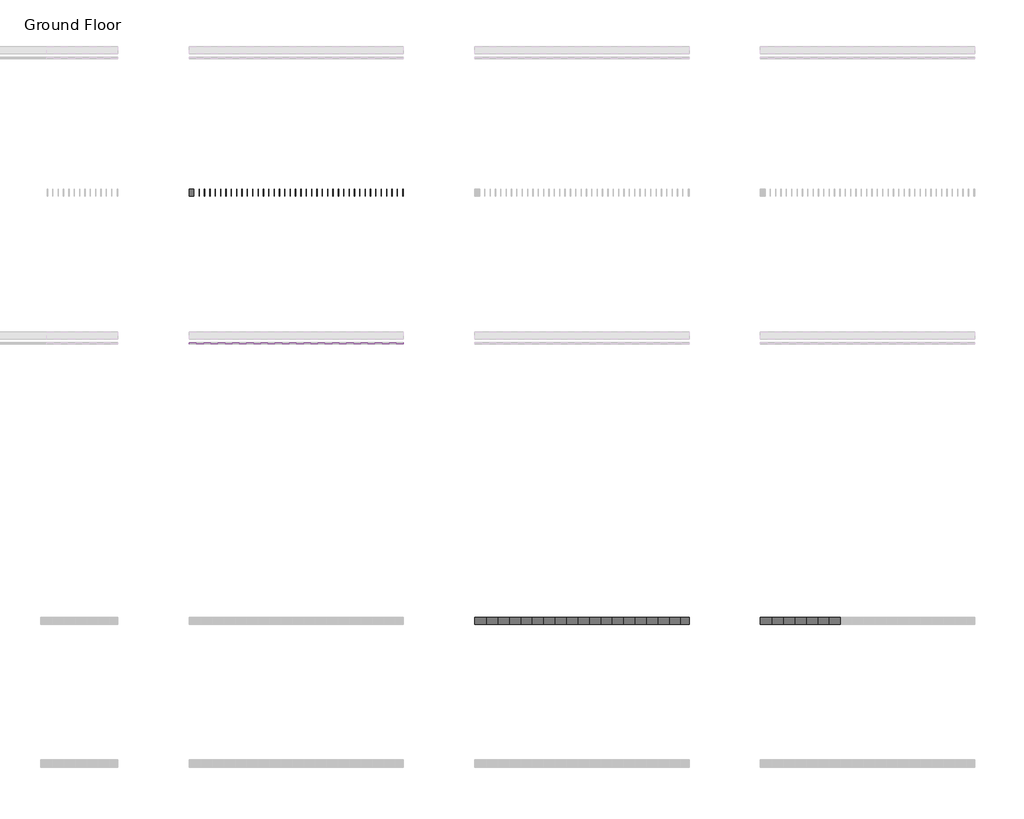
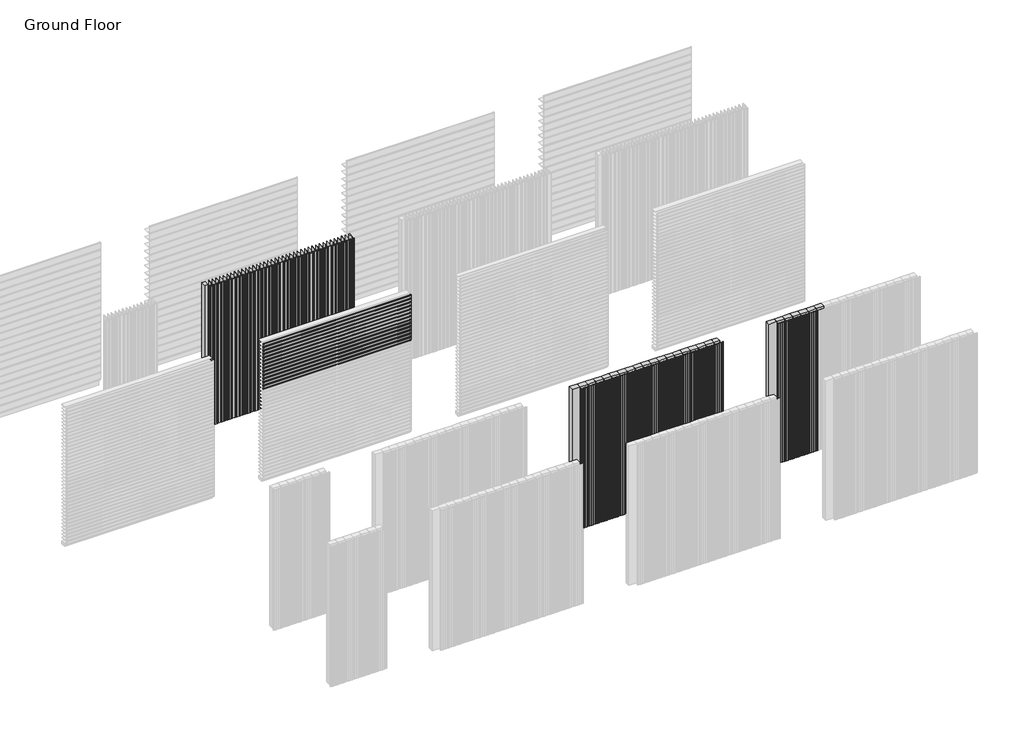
# One storey, part 31 of 350: 75 members, 66 plates.
"""IFC4 building model written with IfcOpenShell, lengths in millimetres."""

from ifc_helpers import new_model, si_unit, origin, place, context, project, spatial, transform, mapped, element, save
from components import rectangular_mullion_73ab8564, rectangular_mullion_894c3da7, empty_system_panel_empty_3b645525, empty_system_panel_empty_df7ddcff, empty_system_panel_empty_86793474, empty_system_panel_empty_27b459cb, empty_system_panel_empty_8dc9dcb4

model = new_model("IFC4")

# Units and contexts
model_context = context("Model", 3, world=origin())
ifc_project = project(units=[si_unit("LENGTHUNIT", "METRE", prefix="MILLI")], contexts=[model_context])

# Site, building, storey
site = spatial("IfcSite", under=ifc_project)
building = spatial("IfcBuilding", under=site)
storey = spatial("IfcBuildingStorey", under=building, Name="Ground Floor", Elevation=0.0)

# Members
placement = place(None, origin())
rectangular_mullion_shape = rectangular_mullion_73ab8564(model_context)
element("IfcMember", 1, ObjectType="Rectangular Mullion : Cladding_Aluminium_Modinex_AluSelekta_Castelation_ScreenClad_160Ultra_TasmanianOak", at=placement, inside=storey, context=model_context, shape_type="MappedRepresentation", body=[
    mapped(rectangular_mullion_shape, transform((45076.4361642, 8968.2978302, 0.0), x_axis=(1.0, 0.0, 0.0), y_axis=(0.0, -1.0, 0.0), z_axis=(0.0, 0.0, -1.0))),
])
element("IfcMember", 2, ObjectType="Rectangular Mullion : Cladding_Aluminium_Modinex_AluSelekta_Castelation_ScreenClad_160Ultra_TasmanianOak", at=placement, inside=storey, context=model_context, shape_type="MappedRepresentation", body=[
    mapped(rectangular_mullion_shape, transform((45236.4361642, 8968.2978302, 0.0), x_axis=(1.0, 0.0, 0.0), y_axis=(0.0, -1.0, 0.0), z_axis=(0.0, 0.0, -1.0))),
])
element("IfcMember", 3, ObjectType="Rectangular Mullion : Cladding_Aluminium_Modinex_AluSelekta_Castelation_ScreenClad_160Ultra_TasmanianOak", at=placement, inside=storey, context=model_context, shape_type="MappedRepresentation", body=[
    mapped(rectangular_mullion_shape, transform((45396.4361642, 8968.2978302, 0.0), x_axis=(1.0, 0.0, 0.0), y_axis=(0.0, -1.0, 0.0), z_axis=(0.0, 0.0, -1.0))),
])
element("IfcMember", 4, ObjectType="Rectangular Mullion : Cladding_Aluminium_Modinex_AluSelekta_Castelation_ScreenClad_160Ultra_TasmanianOak", at=placement, inside=storey, context=model_context, shape_type="MappedRepresentation", body=[
    mapped(rectangular_mullion_shape, transform((45556.4361642, 8968.2978302, 0.0), x_axis=(1.0, 0.0, 0.0), y_axis=(0.0, -1.0, 0.0), z_axis=(0.0, 0.0, -1.0))),
])
element("IfcMember", 5, ObjectType="Rectangular Mullion : Cladding_Aluminium_Modinex_AluSelekta_Castelation_ScreenClad_160Ultra_TasmanianOak", at=placement, inside=storey, context=model_context, shape_type="MappedRepresentation", body=[
    mapped(rectangular_mullion_shape, transform((45716.4361642, 8968.2978302, 0.0), x_axis=(1.0, 0.0, 0.0), y_axis=(0.0, -1.0, 0.0), z_axis=(0.0, 0.0, -1.0))),
])
element("IfcMember", 6, ObjectType="Rectangular Mullion : Cladding_Aluminium_Modinex_AluSelekta_Castelation_ScreenClad_160Ultra_SpottedGum", at=placement, inside=storey, context=model_context, shape_type="MappedRepresentation", body=[
    mapped(rectangular_mullion_shape, transform((41076.4361642, 8968.2978302, 0.0), x_axis=(1.0, 0.0, 0.0), y_axis=(0.0, -1.0, 0.0), z_axis=(0.0, 0.0, -1.0))),
])
element("IfcMember", 7, ObjectType="Rectangular Mullion : Cladding_Aluminium_Modinex_AluSelekta_Castelation_ScreenClad_160Ultra_SpottedGum", at=placement, inside=storey, context=model_context, shape_type="MappedRepresentation", body=[
    mapped(rectangular_mullion_shape, transform((41236.4361642, 8968.2978302, 0.0), x_axis=(1.0, 0.0, 0.0), y_axis=(0.0, -1.0, 0.0), z_axis=(0.0, 0.0, -1.0))),
])
element("IfcMember", 8, ObjectType="Rectangular Mullion : Cladding_Aluminium_Modinex_AluSelekta_Castelation_ScreenClad_160Ultra_SpottedGum", at=placement, inside=storey, context=model_context, shape_type="MappedRepresentation", body=[
    mapped(rectangular_mullion_shape, transform((41396.4361642, 8968.2978302, 0.0), x_axis=(1.0, 0.0, 0.0), y_axis=(0.0, -1.0, 0.0), z_axis=(0.0, 0.0, -1.0))),
])
element("IfcMember", 9, ObjectType="Rectangular Mullion : Cladding_Aluminium_Modinex_AluSelekta_Castelation_ScreenClad_160Ultra_SpottedGum", at=placement, inside=storey, context=model_context, shape_type="MappedRepresentation", body=[
    mapped(rectangular_mullion_shape, transform((41556.4361642, 8968.2978302, 0.0), x_axis=(1.0, 0.0, 0.0), y_axis=(0.0, -1.0, 0.0), z_axis=(0.0, 0.0, -1.0))),
])
element("IfcMember", 10, ObjectType="Rectangular Mullion : Cladding_Aluminium_Modinex_AluSelekta_Castelation_ScreenClad_160Ultra_SpottedGum", at=placement, inside=storey, context=model_context, shape_type="MappedRepresentation", body=[
    mapped(rectangular_mullion_shape, transform((41716.4361642, 8968.2978302, 0.0), x_axis=(1.0, 0.0, 0.0), y_axis=(0.0, -1.0, 0.0), z_axis=(0.0, 0.0, -1.0))),
])
element("IfcMember", 11, ObjectType="Rectangular Mullion : Cladding_Aluminium_Modinex_AluSelekta_Castelation_ScreenClad_160Ultra_SpottedGum", at=placement, inside=storey, context=model_context, shape_type="MappedRepresentation", body=[
    mapped(rectangular_mullion_shape, transform((41876.4361642, 8968.2978302, 0.0), x_axis=(1.0, 0.0, 0.0), y_axis=(0.0, -1.0, 0.0), z_axis=(0.0, 0.0, -1.0))),
])
element("IfcMember", 12, ObjectType="Rectangular Mullion : Cladding_Aluminium_Modinex_AluSelekta_Castelation_ScreenClad_160Ultra_SpottedGum", at=placement, inside=storey, context=model_context, shape_type="MappedRepresentation", body=[
    mapped(rectangular_mullion_shape, transform((42036.4361642, 8968.2978302, 0.0), x_axis=(1.0, 0.0, 0.0), y_axis=(0.0, -1.0, 0.0), z_axis=(0.0, 0.0, -1.0))),
])
element("IfcMember", 13, ObjectType="Rectangular Mullion : Cladding_Aluminium_Modinex_AluSelekta_Castelation_ScreenClad_160Ultra_SpottedGum", at=placement, inside=storey, context=model_context, shape_type="MappedRepresentation", body=[
    mapped(rectangular_mullion_shape, transform((42196.4361642, 8968.2978302, 0.0), x_axis=(1.0, 0.0, 0.0), y_axis=(0.0, -1.0, 0.0), z_axis=(0.0, 0.0, -1.0))),
])
element("IfcMember", 14, ObjectType="Rectangular Mullion : Cladding_Aluminium_Modinex_AluSelekta_Castelation_ScreenClad_160Ultra_SpottedGum", at=placement, inside=storey, context=model_context, shape_type="MappedRepresentation", body=[
    mapped(rectangular_mullion_shape, transform((42356.4361642, 8968.2978302, 0.0), x_axis=(1.0, 0.0, 0.0), y_axis=(0.0, -1.0, 0.0), z_axis=(0.0, 0.0, -1.0))),
])
element("IfcMember", 15, ObjectType="Rectangular Mullion : Cladding_Aluminium_Modinex_AluSelekta_Castelation_ScreenClad_160Ultra_SpottedGum", at=placement, inside=storey, context=model_context, shape_type="MappedRepresentation", body=[
    mapped(rectangular_mullion_shape, transform((42516.4361642, 8968.2978302, 0.0), x_axis=(1.0, 0.0, 0.0), y_axis=(0.0, -1.0, 0.0), z_axis=(0.0, 0.0, -1.0))),
])
element("IfcMember", 16, ObjectType="Rectangular Mullion : Cladding_Aluminium_Modinex_AluSelekta_Castelation_ScreenClad_160Ultra_SpottedGum", at=placement, inside=storey, context=model_context, shape_type="MappedRepresentation", body=[
    mapped(rectangular_mullion_shape, transform((42676.4361642, 8968.2978302, 0.0), x_axis=(1.0, 0.0, 0.0), y_axis=(0.0, -1.0, 0.0), z_axis=(0.0, 0.0, -1.0))),
])
element("IfcMember", 17, ObjectType="Rectangular Mullion : Cladding_Aluminium_Modinex_AluSelekta_Castelation_ScreenClad_160Ultra_SpottedGum", at=placement, inside=storey, context=model_context, shape_type="MappedRepresentation", body=[
    mapped(rectangular_mullion_shape, transform((42836.4361642, 8968.2978302, 0.0), x_axis=(1.0, 0.0, 0.0), y_axis=(0.0, -1.0, 0.0), z_axis=(0.0, 0.0, -1.0))),
])
element("IfcMember", 18, ObjectType="Rectangular Mullion : Cladding_Aluminium_Modinex_AluSelekta_Castelation_ScreenClad_160Ultra_SpottedGum", at=placement, inside=storey, context=model_context, shape_type="MappedRepresentation", body=[
    mapped(rectangular_mullion_shape, transform((42996.4361642, 8968.2978302, 0.0), x_axis=(1.0, 0.0, 0.0), y_axis=(0.0, -1.0, 0.0), z_axis=(0.0, 0.0, -1.0))),
])
element("IfcMember", 19, ObjectType="Rectangular Mullion : Cladding_Aluminium_Modinex_AluSelekta_Castelation_ScreenClad_160Ultra_SpottedGum", at=placement, inside=storey, context=model_context, shape_type="MappedRepresentation", body=[
    mapped(rectangular_mullion_shape, transform((43156.4361642, 8968.2978302, 0.0), x_axis=(1.0, 0.0, 0.0), y_axis=(0.0, -1.0, 0.0), z_axis=(0.0, 0.0, -1.0))),
])
element("IfcMember", 20, ObjectType="Rectangular Mullion : Cladding_Aluminium_Modinex_AluSelekta_Castelation_ScreenClad_160Ultra_SpottedGum", at=placement, inside=storey, context=model_context, shape_type="MappedRepresentation", body=[
    mapped(rectangular_mullion_shape, transform((43316.4361642, 8968.2978302, 0.0), x_axis=(1.0, 0.0, 0.0), y_axis=(0.0, -1.0, 0.0), z_axis=(0.0, 0.0, -1.0))),
])
element("IfcMember", 21, ObjectType="Rectangular Mullion : Cladding_Aluminium_Modinex_AluSelekta_Castelation_ScreenClad_160Ultra_SpottedGum", at=placement, inside=storey, context=model_context, shape_type="MappedRepresentation", body=[
    mapped(rectangular_mullion_shape, transform((43476.4361642, 8968.2978302, 0.0), x_axis=(1.0, 0.0, 0.0), y_axis=(0.0, -1.0, 0.0), z_axis=(0.0, 0.0, -1.0))),
])
element("IfcMember", 22, ObjectType="Rectangular Mullion : Cladding_Aluminium_Modinex_AluSelekta_Castelation_ScreenClad_160Ultra_SpottedGum", at=placement, inside=storey, context=model_context, shape_type="MappedRepresentation", body=[
    mapped(rectangular_mullion_shape, transform((43636.4361642, 8968.2978302, 0.0), x_axis=(1.0, 0.0, 0.0), y_axis=(0.0, -1.0, 0.0), z_axis=(0.0, 0.0, -1.0))),
])
element("IfcMember", 23, ObjectType="Rectangular Mullion : Cladding_Aluminium_Modinex_AluSelekta_Castelation_ScreenClad_160Ultra_SpottedGum", at=placement, inside=storey, context=model_context, shape_type="MappedRepresentation", body=[
    mapped(rectangular_mullion_shape, transform((43796.4361642, 8968.2978302, 0.0), x_axis=(1.0, 0.0, 0.0), y_axis=(0.0, -1.0, 0.0), z_axis=(0.0, 0.0, -1.0))),
])
rectangular_mullion_2_shape = rectangular_mullion_894c3da7(model_context)
element("IfcMember", 24, ObjectType="Rectangular Mullion : Cladding_Aluminium_Modinex_AluSelekta_Channel_75_EnglishOak", at=placement, inside=storey, context=model_context, shape_type="MappedRepresentation", body=[
    mapped(rectangular_mullion_2_shape, transform((39916.4361639, 12968.2978302, 2025.0), x_axis=(0.0, 0.0, 1.0), y_axis=(0.0, -1.0, 0.0), z_axis=(1.0, 0.0, 0.0))),
])
element("IfcMember", 25, ObjectType="Rectangular Mullion : Cladding_Aluminium_Modinex_AluSelekta_Channel_75_EnglishOak", at=placement, inside=storey, context=model_context, shape_type="MappedRepresentation", body=[
    mapped(rectangular_mullion_2_shape, transform((39916.4361639, 12968.2978302, 2100.0), x_axis=(0.0, 0.0, 1.0), y_axis=(0.0, -1.0, 0.0), z_axis=(1.0, 0.0, 0.0))),
])
element("IfcMember", 26, ObjectType="Rectangular Mullion : Cladding_Aluminium_Modinex_AluSelekta_Channel_75_EnglishOak", at=placement, inside=storey, context=model_context, shape_type="MappedRepresentation", body=[
    mapped(rectangular_mullion_2_shape, transform((39916.4361639, 12968.2978302, 2175.0), x_axis=(0.0, 0.0, 1.0), y_axis=(0.0, -1.0, 0.0), z_axis=(1.0, 0.0, 0.0))),
])
element("IfcMember", 27, ObjectType="Rectangular Mullion : Cladding_Aluminium_Modinex_AluSelekta_Channel_75_EnglishOak", at=placement, inside=storey, context=model_context, shape_type="MappedRepresentation", body=[
    mapped(rectangular_mullion_2_shape, transform((39916.4361639, 12968.2978302, 2250.0), x_axis=(0.0, 0.0, 1.0), y_axis=(0.0, -1.0, 0.0), z_axis=(1.0, 0.0, 0.0))),
])
element("IfcMember", 28, ObjectType="Rectangular Mullion : Cladding_Aluminium_Modinex_AluSelekta_Channel_75_EnglishOak", at=placement, inside=storey, context=model_context, shape_type="MappedRepresentation", body=[
    mapped(rectangular_mullion_2_shape, transform((39916.4361639, 12968.2978302, 2325.0), x_axis=(0.0, 0.0, 1.0), y_axis=(0.0, -1.0, 0.0), z_axis=(1.0, 0.0, 0.0))),
])
element("IfcMember", 29, ObjectType="Rectangular Mullion : Cladding_Aluminium_Modinex_AluSelekta_Channel_75_EnglishOak", at=placement, inside=storey, context=model_context, shape_type="MappedRepresentation", body=[
    mapped(rectangular_mullion_2_shape, transform((39916.4361639, 12968.2978302, 2400.0), x_axis=(0.0, 0.0, 1.0), y_axis=(0.0, -1.0, 0.0), z_axis=(1.0, 0.0, 0.0))),
])
element("IfcMember", 30, ObjectType="Rectangular Mullion : Cladding_Aluminium_Modinex_AluSelekta_Channel_75_EnglishOak", at=placement, inside=storey, context=model_context, shape_type="MappedRepresentation", body=[
    mapped(rectangular_mullion_2_shape, transform((39916.4361639, 12968.2978302, 2475.0), x_axis=(0.0, 0.0, 1.0), y_axis=(0.0, -1.0, 0.0), z_axis=(1.0, 0.0, 0.0))),
])
element("IfcMember", 31, ObjectType="Rectangular Mullion : Cladding_Aluminium_Modinex_AluSelekta_Channel_75_EnglishOak", at=placement, inside=storey, context=model_context, shape_type="MappedRepresentation", body=[
    mapped(rectangular_mullion_2_shape, transform((39916.4361639, 12968.2978302, 2550.0), x_axis=(0.0, 0.0, 1.0), y_axis=(0.0, -1.0, 0.0), z_axis=(1.0, 0.0, 0.0))),
])
element("IfcMember", 32, ObjectType="Rectangular Mullion : Cladding_Aluminium_Modinex_AluSelekta_Channel_75_EnglishOak", at=placement, inside=storey, context=model_context, shape_type="MappedRepresentation", body=[
    mapped(rectangular_mullion_2_shape, transform((39916.4361639, 12968.2978302, 2625.0), x_axis=(0.0, 0.0, 1.0), y_axis=(0.0, -1.0, 0.0), z_axis=(1.0, 0.0, 0.0))),
])
element("IfcMember", 33, ObjectType="Rectangular Mullion : Cladding_Aluminium_Modinex_AluSelekta_Channel_75_EnglishOak", at=placement, inside=storey, context=model_context, shape_type="MappedRepresentation", body=[
    mapped(rectangular_mullion_2_shape, transform((39916.4361639, 12968.2978302, 2700.0), x_axis=(0.0, 0.0, 1.0), y_axis=(0.0, -1.0, 0.0), z_axis=(1.0, 0.0, 0.0))),
])
element("IfcMember", 34, ObjectType="Rectangular Mullion : Cladding_Aluminium_Modinex_AluSelekta_Channel_75_EnglishOak", at=placement, inside=storey, context=model_context, shape_type="MappedRepresentation", body=[
    mapped(rectangular_mullion_2_shape, transform((39916.4361639, 12968.2978302, 2775.0), x_axis=(0.0, 0.0, 1.0), y_axis=(0.0, -1.0, 0.0), z_axis=(1.0, 0.0, 0.0))),
])
element("IfcMember", 35, ObjectType="Rectangular Mullion : Cladding_Aluminium_Modinex_AluSelekta_Channel_75_EnglishOak", at=placement, inside=storey, context=model_context, shape_type="MappedRepresentation", body=[
    mapped(rectangular_mullion_2_shape, transform((39916.4361639, 12968.2978302, 2850.0), x_axis=(0.0, 0.0, 1.0), y_axis=(0.0, -1.0, 0.0), z_axis=(1.0, 0.0, 0.0))),
])
element("IfcMember", 36, ObjectType="Rectangular Mullion : Cladding_Aluminium_Modinex_AluSelekta_Channel_75_EnglishOak", at=placement, inside=storey, context=model_context, shape_type="MappedRepresentation", body=[
    mapped(rectangular_mullion_2_shape, transform((39916.4361639, 12968.2978302, 2925.0), x_axis=(0.0, 0.0, 1.0), y_axis=(0.0, -1.0, 0.0), z_axis=(1.0, 0.0, 0.0))),
])
element("IfcMember", 37, ObjectType="Rectangular Mullion : Cladding_Aluminium_Modinex_AluSelekta_Channel_75_EnglishOak", at=placement, inside=storey, context=model_context, shape_type="MappedRepresentation", body=[
    mapped(rectangular_mullion_2_shape, transform((38566.4361642, 14968.2978302, 0.0), x_axis=(1.0, 0.0, 0.0), y_axis=(0.0, -1.0, 0.0), z_axis=(0.0, 0.0, -1.0))),
])
element("IfcMember", 38, ObjectType="Rectangular Mullion : Cladding_Aluminium_Modinex_AluSelekta_Channel_75_EnglishOak", at=placement, inside=storey, context=model_context, shape_type="MappedRepresentation", body=[
    mapped(rectangular_mullion_2_shape, transform((38641.4361642, 14968.2978302, 0.0), x_axis=(1.0, 0.0, 0.0), y_axis=(0.0, -1.0, 0.0), z_axis=(0.0, 0.0, -1.0))),
])
element("IfcMember", 39, ObjectType="Rectangular Mullion : Cladding_Aluminium_Modinex_AluSelekta_Channel_75_EnglishOak", at=placement, inside=storey, context=model_context, shape_type="MappedRepresentation", body=[
    mapped(rectangular_mullion_2_shape, transform((38716.4361642, 14968.2978302, 0.0), x_axis=(1.0, 0.0, 0.0), y_axis=(0.0, -1.0, 0.0), z_axis=(0.0, 0.0, -1.0))),
])
element("IfcMember", 40, ObjectType="Rectangular Mullion : Cladding_Aluminium_Modinex_AluSelekta_Channel_75_EnglishOak", at=placement, inside=storey, context=model_context, shape_type="MappedRepresentation", body=[
    mapped(rectangular_mullion_2_shape, transform((38791.4361642, 14968.2978302, 0.0), x_axis=(1.0, 0.0, 0.0), y_axis=(0.0, -1.0, 0.0), z_axis=(0.0, 0.0, -1.0))),
])
element("IfcMember", 41, ObjectType="Rectangular Mullion : Cladding_Aluminium_Modinex_AluSelekta_Channel_75_EnglishOak", at=placement, inside=storey, context=model_context, shape_type="MappedRepresentation", body=[
    mapped(rectangular_mullion_2_shape, transform((38866.4361642, 14968.2978302, 0.0), x_axis=(1.0, 0.0, 0.0), y_axis=(0.0, -1.0, 0.0), z_axis=(0.0, 0.0, -1.0))),
])
element("IfcMember", 42, ObjectType="Rectangular Mullion : Cladding_Aluminium_Modinex_AluSelekta_Channel_75_EnglishOak", at=placement, inside=storey, context=model_context, shape_type="MappedRepresentation", body=[
    mapped(rectangular_mullion_2_shape, transform((38941.4361642, 14968.2978302, 0.0), x_axis=(1.0, 0.0, 0.0), y_axis=(0.0, -1.0, 0.0), z_axis=(0.0, 0.0, -1.0))),
])
element("IfcMember", 43, ObjectType="Rectangular Mullion : Cladding_Aluminium_Modinex_AluSelekta_Channel_75_EnglishOak", at=placement, inside=storey, context=model_context, shape_type="MappedRepresentation", body=[
    mapped(rectangular_mullion_2_shape, transform((39016.4361642, 14968.2978302, 0.0), x_axis=(1.0, 0.0, 0.0), y_axis=(0.0, -1.0, 0.0), z_axis=(0.0, 0.0, -1.0))),
])
element("IfcMember", 44, ObjectType="Rectangular Mullion : Cladding_Aluminium_Modinex_AluSelekta_Channel_75_EnglishOak", at=placement, inside=storey, context=model_context, shape_type="MappedRepresentation", body=[
    mapped(rectangular_mullion_2_shape, transform((39091.4361642, 14968.2978302, 0.0), x_axis=(1.0, 0.0, 0.0), y_axis=(0.0, -1.0, 0.0), z_axis=(0.0, 0.0, -1.0))),
])
element("IfcMember", 45, ObjectType="Rectangular Mullion : Cladding_Aluminium_Modinex_AluSelekta_Channel_75_EnglishOak", at=placement, inside=storey, context=model_context, shape_type="MappedRepresentation", body=[
    mapped(rectangular_mullion_2_shape, transform((39166.4361642, 14968.2978302, 0.0), x_axis=(1.0, 0.0, 0.0), y_axis=(0.0, -1.0, 0.0), z_axis=(0.0, 0.0, -1.0))),
])
element("IfcMember", 46, ObjectType="Rectangular Mullion : Cladding_Aluminium_Modinex_AluSelekta_Channel_75_EnglishOak", at=placement, inside=storey, context=model_context, shape_type="MappedRepresentation", body=[
    mapped(rectangular_mullion_2_shape, transform((39241.4361642, 14968.2978302, 0.0), x_axis=(1.0, 0.0, 0.0), y_axis=(0.0, -1.0, 0.0), z_axis=(0.0, 0.0, -1.0))),
])
element("IfcMember", 47, ObjectType="Rectangular Mullion : Cladding_Aluminium_Modinex_AluSelekta_Channel_75_EnglishOak", at=placement, inside=storey, context=model_context, shape_type="MappedRepresentation", body=[
    mapped(rectangular_mullion_2_shape, transform((39316.4361642, 14968.2978302, 0.0), x_axis=(1.0, 0.0, 0.0), y_axis=(0.0, -1.0, 0.0), z_axis=(0.0, 0.0, -1.0))),
])
element("IfcMember", 48, ObjectType="Rectangular Mullion : Cladding_Aluminium_Modinex_AluSelekta_Channel_75_EnglishOak", at=placement, inside=storey, context=model_context, shape_type="MappedRepresentation", body=[
    mapped(rectangular_mullion_2_shape, transform((39391.4361642, 14968.2978302, 0.0), x_axis=(1.0, 0.0, 0.0), y_axis=(0.0, -1.0, 0.0), z_axis=(0.0, 0.0, -1.0))),
])
element("IfcMember", 49, ObjectType="Rectangular Mullion : Cladding_Aluminium_Modinex_AluSelekta_Channel_75_EnglishOak", at=placement, inside=storey, context=model_context, shape_type="MappedRepresentation", body=[
    mapped(rectangular_mullion_2_shape, transform((39466.4361642, 14968.2978302, 0.0), x_axis=(1.0, 0.0, 0.0), y_axis=(0.0, -1.0, 0.0), z_axis=(0.0, 0.0, -1.0))),
])
element("IfcMember", 50, ObjectType="Rectangular Mullion : Cladding_Aluminium_Modinex_AluSelekta_Channel_75_EnglishOak", at=placement, inside=storey, context=model_context, shape_type="MappedRepresentation", body=[
    mapped(rectangular_mullion_2_shape, transform((39541.4361642, 14968.2978302, 0.0), x_axis=(1.0, 0.0, 0.0), y_axis=(0.0, -1.0, 0.0), z_axis=(0.0, 0.0, -1.0))),
])
element("IfcMember", 51, ObjectType="Rectangular Mullion : Cladding_Aluminium_Modinex_AluSelekta_Channel_75_EnglishOak", at=placement, inside=storey, context=model_context, shape_type="MappedRepresentation", body=[
    mapped(rectangular_mullion_2_shape, transform((39616.4361642, 14968.2978302, 0.0), x_axis=(1.0, 0.0, 0.0), y_axis=(0.0, -1.0, 0.0), z_axis=(0.0, 0.0, -1.0))),
])
element("IfcMember", 52, ObjectType="Rectangular Mullion : Cladding_Aluminium_Modinex_AluSelekta_Channel_75_EnglishOak", at=placement, inside=storey, context=model_context, shape_type="MappedRepresentation", body=[
    mapped(rectangular_mullion_2_shape, transform((39691.4361642, 14968.2978302, 0.0), x_axis=(1.0, 0.0, 0.0), y_axis=(0.0, -1.0, 0.0), z_axis=(0.0, 0.0, -1.0))),
])
element("IfcMember", 53, ObjectType="Rectangular Mullion : Cladding_Aluminium_Modinex_AluSelekta_Channel_75_EnglishOak", at=placement, inside=storey, context=model_context, shape_type="MappedRepresentation", body=[
    mapped(rectangular_mullion_2_shape, transform((39766.4361642, 14968.2978302, 0.0), x_axis=(1.0, 0.0, 0.0), y_axis=(0.0, -1.0, 0.0), z_axis=(0.0, 0.0, -1.0))),
])
element("IfcMember", 54, ObjectType="Rectangular Mullion : Cladding_Aluminium_Modinex_AluSelekta_Channel_75_EnglishOak", at=placement, inside=storey, context=model_context, shape_type="MappedRepresentation", body=[
    mapped(rectangular_mullion_2_shape, transform((39841.4361642, 14968.2978302, 0.0), x_axis=(1.0, 0.0, 0.0), y_axis=(0.0, -1.0, 0.0), z_axis=(0.0, 0.0, -1.0))),
])
element("IfcMember", 55, ObjectType="Rectangular Mullion : Cladding_Aluminium_Modinex_AluSelekta_Channel_75_EnglishOak", at=placement, inside=storey, context=model_context, shape_type="MappedRepresentation", body=[
    mapped(rectangular_mullion_2_shape, transform((38491.4361642, 14968.2978302, 0.0), x_axis=(1.0, 0.0, 0.0), y_axis=(0.0, -1.0, 0.0), z_axis=(0.0, 0.0, -1.0))),
])
element("IfcMember", 56, ObjectType="Rectangular Mullion : Cladding_Aluminium_Modinex_AluSelekta_Channel_75_EnglishOak", at=placement, inside=storey, context=model_context, shape_type="MappedRepresentation", body=[
    mapped(rectangular_mullion_2_shape, transform((38416.4361642, 14968.2978302, 0.0), x_axis=(1.0, 0.0, 0.0), y_axis=(0.0, -1.0, 0.0), z_axis=(0.0, 0.0, -1.0))),
])
element("IfcMember", 57, ObjectType="Rectangular Mullion : Cladding_Aluminium_Modinex_AluSelekta_Channel_75_EnglishOak", at=placement, inside=storey, context=model_context, shape_type="MappedRepresentation", body=[
    mapped(rectangular_mullion_2_shape, transform((38341.4361642, 14968.2978302, 0.0), x_axis=(1.0, 0.0, 0.0), y_axis=(0.0, -1.0, 0.0), z_axis=(0.0, 0.0, -1.0))),
])
element("IfcMember", 58, ObjectType="Rectangular Mullion : Cladding_Aluminium_Modinex_AluSelekta_Channel_75_EnglishOak", at=placement, inside=storey, context=model_context, shape_type="MappedRepresentation", body=[
    mapped(rectangular_mullion_2_shape, transform((38266.4361642, 14968.2978302, 0.0), x_axis=(1.0, 0.0, 0.0), y_axis=(0.0, -1.0, 0.0), z_axis=(0.0, 0.0, -1.0))),
])
element("IfcMember", 59, ObjectType="Rectangular Mullion : Cladding_Aluminium_Modinex_AluSelekta_Channel_75_EnglishOak", at=placement, inside=storey, context=model_context, shape_type="MappedRepresentation", body=[
    mapped(rectangular_mullion_2_shape, transform((38191.4361642, 14968.2978302, 0.0), x_axis=(1.0, 0.0, 0.0), y_axis=(0.0, -1.0, 0.0), z_axis=(0.0, 0.0, -1.0))),
])
element("IfcMember", 60, ObjectType="Rectangular Mullion : Cladding_Aluminium_Modinex_AluSelekta_Channel_75_EnglishOak", at=placement, inside=storey, context=model_context, shape_type="MappedRepresentation", body=[
    mapped(rectangular_mullion_2_shape, transform((38116.4361642, 14968.2978302, 0.0), x_axis=(1.0, 0.0, 0.0), y_axis=(0.0, -1.0, 0.0), z_axis=(0.0, 0.0, -1.0))),
])
element("IfcMember", 61, ObjectType="Rectangular Mullion : Cladding_Aluminium_Modinex_AluSelekta_Channel_75_EnglishOak", at=placement, inside=storey, context=model_context, shape_type="MappedRepresentation", body=[
    mapped(rectangular_mullion_2_shape, transform((38041.4361642, 14968.2978302, 0.0), x_axis=(1.0, 0.0, 0.0), y_axis=(0.0, -1.0, 0.0), z_axis=(0.0, 0.0, -1.0))),
])
element("IfcMember", 62, ObjectType="Rectangular Mullion : Cladding_Aluminium_Modinex_AluSelekta_Channel_75_EnglishOak", at=placement, inside=storey, context=model_context, shape_type="MappedRepresentation", body=[
    mapped(rectangular_mullion_2_shape, transform((37966.4361642, 14968.2978302, 0.0), x_axis=(1.0, 0.0, 0.0), y_axis=(0.0, -1.0, 0.0), z_axis=(0.0, 0.0, -1.0))),
])
element("IfcMember", 63, ObjectType="Rectangular Mullion : Cladding_Aluminium_Modinex_AluSelekta_Channel_75_EnglishOak", at=placement, inside=storey, context=model_context, shape_type="MappedRepresentation", body=[
    mapped(rectangular_mullion_2_shape, transform((37891.4361642, 14968.2978302, 0.0), x_axis=(1.0, 0.0, 0.0), y_axis=(0.0, -1.0, 0.0), z_axis=(0.0, 0.0, -1.0))),
])
element("IfcMember", 64, ObjectType="Rectangular Mullion : Cladding_Aluminium_Modinex_AluSelekta_Channel_75_EnglishOak", at=placement, inside=storey, context=model_context, shape_type="MappedRepresentation", body=[
    mapped(rectangular_mullion_2_shape, transform((37816.4361642, 14968.2978302, 0.0), x_axis=(1.0, 0.0, 0.0), y_axis=(0.0, -1.0, 0.0), z_axis=(0.0, 0.0, -1.0))),
])
element("IfcMember", 65, ObjectType="Rectangular Mullion : Cladding_Aluminium_Modinex_AluSelekta_Channel_75_EnglishOak", at=placement, inside=storey, context=model_context, shape_type="MappedRepresentation", body=[
    mapped(rectangular_mullion_2_shape, transform((37741.4361642, 14968.2978302, 0.0), x_axis=(1.0, 0.0, 0.0), y_axis=(0.0, -1.0, 0.0), z_axis=(0.0, 0.0, -1.0))),
])
element("IfcMember", 66, ObjectType="Rectangular Mullion : Cladding_Aluminium_Modinex_AluSelekta_Channel_75_EnglishOak", at=placement, inside=storey, context=model_context, shape_type="MappedRepresentation", body=[
    mapped(rectangular_mullion_2_shape, transform((37666.4361642, 14968.2978302, 0.0), x_axis=(1.0, 0.0, 0.0), y_axis=(0.0, -1.0, 0.0), z_axis=(0.0, 0.0, -1.0))),
])
element("IfcMember", 67, ObjectType="Rectangular Mullion : Cladding_Aluminium_Modinex_AluSelekta_Channel_75_EnglishOak", at=placement, inside=storey, context=model_context, shape_type="MappedRepresentation", body=[
    mapped(rectangular_mullion_2_shape, transform((37591.4361642, 14968.2978302, 0.0), x_axis=(1.0, 0.0, 0.0), y_axis=(0.0, -1.0, 0.0), z_axis=(0.0, 0.0, -1.0))),
])
element("IfcMember", 68, ObjectType="Rectangular Mullion : Cladding_Aluminium_Modinex_AluSelekta_Channel_75_EnglishOak", at=placement, inside=storey, context=model_context, shape_type="MappedRepresentation", body=[
    mapped(rectangular_mullion_2_shape, transform((37516.4361642, 14968.2978302, 0.0), x_axis=(1.0, 0.0, 0.0), y_axis=(0.0, -1.0, 0.0), z_axis=(0.0, 0.0, -1.0))),
])
element("IfcMember", 69, ObjectType="Rectangular Mullion : Cladding_Aluminium_Modinex_AluSelekta_Channel_75_EnglishOak", at=placement, inside=storey, context=model_context, shape_type="MappedRepresentation", body=[
    mapped(rectangular_mullion_2_shape, transform((37441.4361642, 14968.2978302, 0.0), x_axis=(1.0, 0.0, 0.0), y_axis=(0.0, -1.0, 0.0), z_axis=(0.0, 0.0, -1.0))),
])
element("IfcMember", 70, ObjectType="Rectangular Mullion : Cladding_Aluminium_Modinex_AluSelekta_Channel_75_EnglishOak", at=placement, inside=storey, context=model_context, shape_type="MappedRepresentation", body=[
    mapped(rectangular_mullion_2_shape, transform((37366.4361642, 14968.2978302, 0.0), x_axis=(1.0, 0.0, 0.0), y_axis=(0.0, -1.0, 0.0), z_axis=(0.0, 0.0, -1.0))),
])
element("IfcMember", 71, ObjectType="Rectangular Mullion : Cladding_Aluminium_Modinex_AluSelekta_Channel_75_EnglishOak", at=placement, inside=storey, context=model_context, shape_type="MappedRepresentation", body=[
    mapped(rectangular_mullion_2_shape, transform((37291.4361642, 14968.2978302, 0.0), x_axis=(1.0, 0.0, 0.0), y_axis=(0.0, -1.0, 0.0), z_axis=(0.0, 0.0, -1.0))),
])
element("IfcMember", 72, ObjectType="Rectangular Mullion : Cladding_Aluminium_Modinex_AluSelekta_Channel_75_EnglishOak", at=placement, inside=storey, context=model_context, shape_type="MappedRepresentation", body=[
    mapped(rectangular_mullion_2_shape, transform((37216.4361642, 14968.2978302, 0.0), x_axis=(1.0, 0.0, 0.0), y_axis=(0.0, -1.0, 0.0), z_axis=(0.0, 0.0, -1.0))),
])
element("IfcMember", 73, ObjectType="Rectangular Mullion : Cladding_Aluminium_Modinex_AluSelekta_Channel_75_EnglishOak", at=placement, inside=storey, context=model_context, shape_type="MappedRepresentation", body=[
    mapped(rectangular_mullion_2_shape, transform((37141.4361642, 14968.2978302, 0.0), x_axis=(1.0, 0.0, 0.0), y_axis=(0.0, -1.0, 0.0), z_axis=(0.0, 0.0, -1.0))),
])
element("IfcMember", 74, ObjectType="Rectangular Mullion : Cladding_Aluminium_Modinex_AluSelekta_Channel_75_EnglishOak", at=placement, inside=storey, context=model_context, shape_type="MappedRepresentation", body=[
    mapped(rectangular_mullion_2_shape, transform((37066.4361642, 14968.2978302, 0.0), x_axis=(1.0, 0.0, 0.0), y_axis=(0.0, -1.0, 0.0), z_axis=(0.0, 0.0, -1.0))),
])
element("IfcMember", 75, ObjectType="Rectangular Mullion : Cladding_Aluminium_Modinex_AluSelekta_Channel_75_EnglishOak", at=placement, inside=storey, context=model_context, shape_type="MappedRepresentation", body=[
    mapped(rectangular_mullion_2_shape, transform((36991.4361642, 14968.2978302, 0.0), x_axis=(1.0, 0.0, 0.0), y_axis=(0.0, -1.0, 0.0), z_axis=(0.0, 0.0, -1.0))),
])

# Plates
empty_system_panel_empty_shape = empty_system_panel_empty_3b645525(model_context)
element("IfcPlate", 76, ObjectType="Empty System Panel : Empty", at=placement, inside=storey, context=model_context, shape_type="MappedRepresentation", body=[
    mapped(empty_system_panel_empty_shape, transform((40996.4361641, 8968.2978302, 0.0), x_axis=(1.0, 0.0, 0.0), y_axis=(0.0, 1.0, 0.0), z_axis=(0.0, 0.0, 1.0))),
])
element("IfcPlate", 77, ObjectType="Empty System Panel : Empty", at=placement, inside=storey, context=model_context, shape_type="MappedRepresentation", body=[
    mapped(empty_system_panel_empty_shape, transform((41156.4361642, 8968.2978302, 0.0), x_axis=(1.0, 0.0, 0.0), y_axis=(0.0, 1.0, 0.0), z_axis=(0.0, 0.0, 1.0))),
])
element("IfcPlate", 78, ObjectType="Empty System Panel : Empty", at=placement, inside=storey, context=model_context, shape_type="MappedRepresentation", body=[
    mapped(empty_system_panel_empty_shape, transform((41316.4361642, 8968.2978302, 0.0), x_axis=(1.0, 0.0, 0.0), y_axis=(0.0, 1.0, 0.0), z_axis=(0.0, 0.0, 1.0))),
])
element("IfcPlate", 79, ObjectType="Empty System Panel : Empty", at=placement, inside=storey, context=model_context, shape_type="MappedRepresentation", body=[
    mapped(empty_system_panel_empty_shape, transform((41476.4361642, 8968.2978302, 0.0), x_axis=(1.0, 0.0, 0.0), y_axis=(0.0, 1.0, 0.0), z_axis=(0.0, 0.0, 1.0))),
])
element("IfcPlate", 80, ObjectType="Empty System Panel : Empty", at=placement, inside=storey, context=model_context, shape_type="MappedRepresentation", body=[
    mapped(empty_system_panel_empty_shape, transform((41636.4361642, 8968.2978302, 0.0), x_axis=(1.0, 0.0, 0.0), y_axis=(0.0, 1.0, 0.0), z_axis=(0.0, 0.0, 1.0))),
])
element("IfcPlate", 81, ObjectType="Empty System Panel : Empty", at=placement, inside=storey, context=model_context, shape_type="MappedRepresentation", body=[
    mapped(empty_system_panel_empty_shape, transform((41796.4361642, 8968.2978302, 0.0), x_axis=(1.0, 0.0, 0.0), y_axis=(0.0, 1.0, 0.0), z_axis=(0.0, 0.0, 1.0))),
])
element("IfcPlate", 82, ObjectType="Empty System Panel : Empty", at=placement, inside=storey, context=model_context, shape_type="MappedRepresentation", body=[
    mapped(empty_system_panel_empty_shape, transform((41956.4361642, 8968.2978302, 0.0), x_axis=(1.0, 0.0, 0.0), y_axis=(0.0, 1.0, 0.0), z_axis=(0.0, 0.0, 1.0))),
])
element("IfcPlate", 83, ObjectType="Empty System Panel : Empty", at=placement, inside=storey, context=model_context, shape_type="MappedRepresentation", body=[
    mapped(empty_system_panel_empty_shape, transform((42116.4361642, 8968.2978302, 0.0), x_axis=(1.0, 0.0, 0.0), y_axis=(0.0, 1.0, 0.0), z_axis=(0.0, 0.0, 1.0))),
])
element("IfcPlate", 84, ObjectType="Empty System Panel : Empty", at=placement, inside=storey, context=model_context, shape_type="MappedRepresentation", body=[
    mapped(empty_system_panel_empty_shape, transform((42276.4361642, 8968.2978302, 0.0), x_axis=(1.0, 0.0, 0.0), y_axis=(0.0, 1.0, 0.0), z_axis=(0.0, 0.0, 1.0))),
])
element("IfcPlate", 85, ObjectType="Empty System Panel : Empty", at=placement, inside=storey, context=model_context, shape_type="MappedRepresentation", body=[
    mapped(empty_system_panel_empty_shape, transform((42436.4361642, 8968.2978302, 0.0), x_axis=(1.0, 0.0, 0.0), y_axis=(0.0, 1.0, 0.0), z_axis=(0.0, 0.0, 1.0))),
])
element("IfcPlate", 86, ObjectType="Empty System Panel : Empty", at=placement, inside=storey, context=model_context, shape_type="MappedRepresentation", body=[
    mapped(empty_system_panel_empty_shape, transform((42596.4361642, 8968.2978302, 0.0), x_axis=(1.0, 0.0, 0.0), y_axis=(0.0, 1.0, 0.0), z_axis=(0.0, 0.0, 1.0))),
])
element("IfcPlate", 87, ObjectType="Empty System Panel : Empty", at=placement, inside=storey, context=model_context, shape_type="MappedRepresentation", body=[
    mapped(empty_system_panel_empty_shape, transform((42756.4361642, 8968.2978302, 0.0), x_axis=(1.0, 0.0, 0.0), y_axis=(0.0, 1.0, 0.0), z_axis=(0.0, 0.0, 1.0))),
])
element("IfcPlate", 88, ObjectType="Empty System Panel : Empty", at=placement, inside=storey, context=model_context, shape_type="MappedRepresentation", body=[
    mapped(empty_system_panel_empty_shape, transform((42916.4361642, 8968.2978302, 0.0), x_axis=(1.0, 0.0, 0.0), y_axis=(0.0, 1.0, 0.0), z_axis=(0.0, 0.0, 1.0))),
])
element("IfcPlate", 89, ObjectType="Empty System Panel : Empty", at=placement, inside=storey, context=model_context, shape_type="MappedRepresentation", body=[
    mapped(empty_system_panel_empty_shape, transform((43076.4361642, 8968.2978302, 0.0), x_axis=(1.0, 0.0, 0.0), y_axis=(0.0, 1.0, 0.0), z_axis=(0.0, 0.0, 1.0))),
])
element("IfcPlate", 90, ObjectType="Empty System Panel : Empty", at=placement, inside=storey, context=model_context, shape_type="MappedRepresentation", body=[
    mapped(empty_system_panel_empty_shape, transform((43236.4361642, 8968.2978302, 0.0), x_axis=(1.0, 0.0, 0.0), y_axis=(0.0, 1.0, 0.0), z_axis=(0.0, 0.0, 1.0))),
])
element("IfcPlate", 91, ObjectType="Empty System Panel : Empty", at=placement, inside=storey, context=model_context, shape_type="MappedRepresentation", body=[
    mapped(empty_system_panel_empty_shape, transform((43396.4361642, 8968.2978302, 0.0), x_axis=(1.0, 0.0, 0.0), y_axis=(0.0, 1.0, 0.0), z_axis=(0.0, 0.0, 1.0))),
])
element("IfcPlate", 92, ObjectType="Empty System Panel : Empty", at=placement, inside=storey, context=model_context, shape_type="MappedRepresentation", body=[
    mapped(empty_system_panel_empty_shape, transform((43556.4361642, 8968.2978302, 0.0), x_axis=(1.0, 0.0, 0.0), y_axis=(0.0, 1.0, 0.0), z_axis=(0.0, 0.0, 1.0))),
])
element("IfcPlate", 93, ObjectType="Empty System Panel : Empty", at=placement, inside=storey, context=model_context, shape_type="MappedRepresentation", body=[
    mapped(empty_system_panel_empty_shape, transform((43716.4361642, 8968.2978302, 0.0), x_axis=(1.0, 0.0, 0.0), y_axis=(0.0, 1.0, 0.0), z_axis=(0.0, 0.0, 1.0))),
])
element("IfcPlate", 94, ObjectType="Empty System Panel : Empty", at=placement, inside=storey, context=model_context, shape_type="MappedRepresentation", body=[
    mapped(empty_system_panel_empty_shape, transform((44996.4361641, 8968.2978302, 0.0), x_axis=(1.0, 0.0, 0.0), y_axis=(0.0, 1.0, 0.0), z_axis=(0.0, 0.0, 1.0))),
])
element("IfcPlate", 95, ObjectType="Empty System Panel : Empty", at=placement, inside=storey, context=model_context, shape_type="MappedRepresentation", body=[
    mapped(empty_system_panel_empty_shape, transform((45156.4361642, 8968.2978302, 0.0), x_axis=(1.0, 0.0, 0.0), y_axis=(0.0, 1.0, 0.0), z_axis=(0.0, 0.0, 1.0))),
])
element("IfcPlate", 96, ObjectType="Empty System Panel : Empty", at=placement, inside=storey, context=model_context, shape_type="MappedRepresentation", body=[
    mapped(empty_system_panel_empty_shape, transform((45316.4361642, 8968.2978302, 0.0), x_axis=(1.0, 0.0, 0.0), y_axis=(0.0, 1.0, 0.0), z_axis=(0.0, 0.0, 1.0))),
])
element("IfcPlate", 97, ObjectType="Empty System Panel : Empty", at=placement, inside=storey, context=model_context, shape_type="MappedRepresentation", body=[
    mapped(empty_system_panel_empty_shape, transform((45476.4361642, 8968.2978302, 0.0), x_axis=(1.0, 0.0, 0.0), y_axis=(0.0, 1.0, 0.0), z_axis=(0.0, 0.0, 1.0))),
])
element("IfcPlate", 98, ObjectType="Empty System Panel : Empty", at=placement, inside=storey, context=model_context, shape_type="MappedRepresentation", body=[
    mapped(empty_system_panel_empty_shape, transform((45636.4361642, 8968.2978302, 0.0), x_axis=(1.0, 0.0, 0.0), y_axis=(0.0, 1.0, 0.0), z_axis=(0.0, 0.0, 1.0))),
])
element("IfcPlate", 99, ObjectType="Empty System Panel : Empty", at=placement, inside=storey, context=model_context, shape_type="MappedRepresentation", body=[
    mapped(empty_system_panel_empty_shape, transform((45796.4361642, 8968.2978302, 0.0), x_axis=(1.0, 0.0, 0.0), y_axis=(0.0, 1.0, 0.0), z_axis=(0.0, 0.0, 1.0))),
])
element("IfcPlate", 100, ObjectType="Empty System Panel : Empty", at=placement, inside=storey, context=model_context, shape_type="MappedRepresentation", body=[
    mapped(empty_system_panel_empty_shape, transform((45956.4361642, 8968.2978302, 0.0), x_axis=(1.0, 0.0, 0.0), y_axis=(0.0, 1.0, 0.0), z_axis=(0.0, 0.0, 1.0))),
])
empty_system_panel_empty_2_shape = empty_system_panel_empty_df7ddcff(model_context)
element("IfcPlate", 101, ObjectType="Empty System Panel : Empty", at=placement, inside=storey, context=model_context, shape_type="MappedRepresentation", body=[
    mapped(empty_system_panel_empty_2_shape, transform((43856.4361641, 8968.2978302, 0.0), x_axis=(1.0, 0.0, 0.0), y_axis=(0.0, 1.0, 0.0), z_axis=(0.0, 0.0, 1.0))),
])
empty_system_panel_empty_3_shape = empty_system_panel_empty_86793474(model_context)
element("IfcPlate", 102, ObjectType="Empty System Panel : Empty", at=placement, inside=storey, context=model_context, shape_type="MappedRepresentation", body=[
    mapped(empty_system_panel_empty_3_shape, transform((36948.8238843, 14968.2978302, 0.0), x_axis=(1.0, 0.0, 0.0), y_axis=(0.0, 1.0, 0.0), z_axis=(0.0, 0.0, 1.0))),
])
empty_system_panel_empty_4_shape = empty_system_panel_empty_27b459cb(model_context)
element("IfcPlate", 103, ObjectType="Empty System Panel : Empty", at=placement, inside=storey, context=model_context, shape_type="MappedRepresentation", body=[
    mapped(empty_system_panel_empty_4_shape, transform((38629.9529326, 14968.2978302, 0.0), x_axis=(1.0, 0.0, 0.0), y_axis=(0.0, 1.0, 0.0), z_axis=(0.0, 0.0, 1.0))),
])
element("IfcPlate", 104, ObjectType="Empty System Panel : Empty", at=placement, inside=storey, context=model_context, shape_type="MappedRepresentation", body=[
    mapped(empty_system_panel_empty_4_shape, transform((38704.9529326, 14968.2978302, 0.0), x_axis=(1.0, 0.0, 0.0), y_axis=(0.0, 1.0, 0.0), z_axis=(0.0, 0.0, 1.0))),
])
element("IfcPlate", 105, ObjectType="Empty System Panel : Empty", at=placement, inside=storey, context=model_context, shape_type="MappedRepresentation", body=[
    mapped(empty_system_panel_empty_4_shape, transform((38779.9529326, 14968.2978302, 0.0), x_axis=(1.0, 0.0, 0.0), y_axis=(0.0, 1.0, 0.0), z_axis=(0.0, 0.0, 1.0))),
])
element("IfcPlate", 106, ObjectType="Empty System Panel : Empty", at=placement, inside=storey, context=model_context, shape_type="MappedRepresentation", body=[
    mapped(empty_system_panel_empty_4_shape, transform((38854.9529326, 14968.2978302, 0.0), x_axis=(1.0, 0.0, 0.0), y_axis=(0.0, 1.0, 0.0), z_axis=(0.0, 0.0, 1.0))),
])
element("IfcPlate", 107, ObjectType="Empty System Panel : Empty", at=placement, inside=storey, context=model_context, shape_type="MappedRepresentation", body=[
    mapped(empty_system_panel_empty_4_shape, transform((38929.9529326, 14968.2978302, 0.0), x_axis=(1.0, 0.0, 0.0), y_axis=(0.0, 1.0, 0.0), z_axis=(0.0, 0.0, 1.0))),
])
element("IfcPlate", 108, ObjectType="Empty System Panel : Empty", at=placement, inside=storey, context=model_context, shape_type="MappedRepresentation", body=[
    mapped(empty_system_panel_empty_4_shape, transform((39004.9529326, 14968.2978302, 0.0), x_axis=(1.0, 0.0, 0.0), y_axis=(0.0, 1.0, 0.0), z_axis=(0.0, 0.0, 1.0))),
])
element("IfcPlate", 109, ObjectType="Empty System Panel : Empty", at=placement, inside=storey, context=model_context, shape_type="MappedRepresentation", body=[
    mapped(empty_system_panel_empty_4_shape, transform((39079.9529326, 14968.2978302, 0.0), x_axis=(1.0, 0.0, 0.0), y_axis=(0.0, 1.0, 0.0), z_axis=(0.0, 0.0, 1.0))),
])
element("IfcPlate", 110, ObjectType="Empty System Panel : Empty", at=placement, inside=storey, context=model_context, shape_type="MappedRepresentation", body=[
    mapped(empty_system_panel_empty_4_shape, transform((39154.9529326, 14968.2978302, 0.0), x_axis=(1.0, 0.0, 0.0), y_axis=(0.0, 1.0, 0.0), z_axis=(0.0, 0.0, 1.0))),
])
element("IfcPlate", 111, ObjectType="Empty System Panel : Empty", at=placement, inside=storey, context=model_context, shape_type="MappedRepresentation", body=[
    mapped(empty_system_panel_empty_4_shape, transform((39229.9529326, 14968.2978302, 0.0), x_axis=(1.0, 0.0, 0.0), y_axis=(0.0, 1.0, 0.0), z_axis=(0.0, 0.0, 1.0))),
])
element("IfcPlate", 112, ObjectType="Empty System Panel : Empty", at=placement, inside=storey, context=model_context, shape_type="MappedRepresentation", body=[
    mapped(empty_system_panel_empty_4_shape, transform((39304.9529326, 14968.2978302, 0.0), x_axis=(1.0, 0.0, 0.0), y_axis=(0.0, 1.0, 0.0), z_axis=(0.0, 0.0, 1.0))),
])
element("IfcPlate", 113, ObjectType="Empty System Panel : Empty", at=placement, inside=storey, context=model_context, shape_type="MappedRepresentation", body=[
    mapped(empty_system_panel_empty_4_shape, transform((39379.9529326, 14968.2978302, 0.0), x_axis=(1.0, 0.0, 0.0), y_axis=(0.0, 1.0, 0.0), z_axis=(0.0, 0.0, 1.0))),
])
element("IfcPlate", 114, ObjectType="Empty System Panel : Empty", at=placement, inside=storey, context=model_context, shape_type="MappedRepresentation", body=[
    mapped(empty_system_panel_empty_4_shape, transform((39454.9529326, 14968.2978302, 0.0), x_axis=(1.0, 0.0, 0.0), y_axis=(0.0, 1.0, 0.0), z_axis=(0.0, 0.0, 1.0))),
])
element("IfcPlate", 115, ObjectType="Empty System Panel : Empty", at=placement, inside=storey, context=model_context, shape_type="MappedRepresentation", body=[
    mapped(empty_system_panel_empty_4_shape, transform((39529.9529326, 14968.2978302, 0.0), x_axis=(1.0, 0.0, 0.0), y_axis=(0.0, 1.0, 0.0), z_axis=(0.0, 0.0, 1.0))),
])
element("IfcPlate", 116, ObjectType="Empty System Panel : Empty", at=placement, inside=storey, context=model_context, shape_type="MappedRepresentation", body=[
    mapped(empty_system_panel_empty_4_shape, transform((39604.9529326, 14968.2978302, 0.0), x_axis=(1.0, 0.0, 0.0), y_axis=(0.0, 1.0, 0.0), z_axis=(0.0, 0.0, 1.0))),
])
element("IfcPlate", 117, ObjectType="Empty System Panel : Empty", at=placement, inside=storey, context=model_context, shape_type="MappedRepresentation", body=[
    mapped(empty_system_panel_empty_4_shape, transform((39679.9529326, 14968.2978302, 0.0), x_axis=(1.0, 0.0, 0.0), y_axis=(0.0, 1.0, 0.0), z_axis=(0.0, 0.0, 1.0))),
])
element("IfcPlate", 118, ObjectType="Empty System Panel : Empty", at=placement, inside=storey, context=model_context, shape_type="MappedRepresentation", body=[
    mapped(empty_system_panel_empty_4_shape, transform((39754.9529326, 14968.2978302, 0.0), x_axis=(1.0, 0.0, 0.0), y_axis=(0.0, 1.0, 0.0), z_axis=(0.0, 0.0, 1.0))),
])
element("IfcPlate", 119, ObjectType="Empty System Panel : Empty", at=placement, inside=storey, context=model_context, shape_type="MappedRepresentation", body=[
    mapped(empty_system_panel_empty_4_shape, transform((39829.9529326, 14968.2978302, 0.0), x_axis=(1.0, 0.0, 0.0), y_axis=(0.0, 1.0, 0.0), z_axis=(0.0, 0.0, 1.0))),
])
element("IfcPlate", 120, ObjectType="Empty System Panel : Empty", at=placement, inside=storey, context=model_context, shape_type="MappedRepresentation", body=[
    mapped(empty_system_panel_empty_4_shape, transform((38554.9529326, 14968.2978302, 0.0), x_axis=(1.0, 0.0, 0.0), y_axis=(0.0, 1.0, 0.0), z_axis=(0.0, 0.0, 1.0))),
])
element("IfcPlate", 121, ObjectType="Empty System Panel : Empty", at=placement, inside=storey, context=model_context, shape_type="MappedRepresentation", body=[
    mapped(empty_system_panel_empty_4_shape, transform((38479.9529326, 14968.2978302, 0.0), x_axis=(1.0, 0.0, 0.0), y_axis=(0.0, 1.0, 0.0), z_axis=(0.0, 0.0, 1.0))),
])
element("IfcPlate", 122, ObjectType="Empty System Panel : Empty", at=placement, inside=storey, context=model_context, shape_type="MappedRepresentation", body=[
    mapped(empty_system_panel_empty_4_shape, transform((38404.9529326, 14968.2978302, 0.0), x_axis=(1.0, 0.0, 0.0), y_axis=(0.0, 1.0, 0.0), z_axis=(0.0, 0.0, 1.0))),
])
element("IfcPlate", 123, ObjectType="Empty System Panel : Empty", at=placement, inside=storey, context=model_context, shape_type="MappedRepresentation", body=[
    mapped(empty_system_panel_empty_4_shape, transform((38329.9529326, 14968.2978302, 0.0), x_axis=(1.0, 0.0, 0.0), y_axis=(0.0, 1.0, 0.0), z_axis=(0.0, 0.0, 1.0))),
])
element("IfcPlate", 124, ObjectType="Empty System Panel : Empty", at=placement, inside=storey, context=model_context, shape_type="MappedRepresentation", body=[
    mapped(empty_system_panel_empty_4_shape, transform((38254.9529326, 14968.2978302, 0.0), x_axis=(1.0, 0.0, 0.0), y_axis=(0.0, 1.0, 0.0), z_axis=(0.0, 0.0, 1.0))),
])
element("IfcPlate", 125, ObjectType="Empty System Panel : Empty", at=placement, inside=storey, context=model_context, shape_type="MappedRepresentation", body=[
    mapped(empty_system_panel_empty_4_shape, transform((38179.9529326, 14968.2978302, 0.0), x_axis=(1.0, 0.0, 0.0), y_axis=(0.0, 1.0, 0.0), z_axis=(0.0, 0.0, 1.0))),
])
element("IfcPlate", 126, ObjectType="Empty System Panel : Empty", at=placement, inside=storey, context=model_context, shape_type="MappedRepresentation", body=[
    mapped(empty_system_panel_empty_4_shape, transform((38104.9529326, 14968.2978302, 0.0), x_axis=(1.0, 0.0, 0.0), y_axis=(0.0, 1.0, 0.0), z_axis=(0.0, 0.0, 1.0))),
])
element("IfcPlate", 127, ObjectType="Empty System Panel : Empty", at=placement, inside=storey, context=model_context, shape_type="MappedRepresentation", body=[
    mapped(empty_system_panel_empty_4_shape, transform((38029.9529326, 14968.2978302, 0.0), x_axis=(1.0, 0.0, 0.0), y_axis=(0.0, 1.0, 0.0), z_axis=(0.0, 0.0, 1.0))),
])
element("IfcPlate", 128, ObjectType="Empty System Panel : Empty", at=placement, inside=storey, context=model_context, shape_type="MappedRepresentation", body=[
    mapped(empty_system_panel_empty_4_shape, transform((37954.9529326, 14968.2978302, 0.0), x_axis=(1.0, 0.0, 0.0), y_axis=(0.0, 1.0, 0.0), z_axis=(0.0, 0.0, 1.0))),
])
element("IfcPlate", 129, ObjectType="Empty System Panel : Empty", at=placement, inside=storey, context=model_context, shape_type="MappedRepresentation", body=[
    mapped(empty_system_panel_empty_4_shape, transform((37879.9529326, 14968.2978302, 0.0), x_axis=(1.0, 0.0, 0.0), y_axis=(0.0, 1.0, 0.0), z_axis=(0.0, 0.0, 1.0))),
])
element("IfcPlate", 130, ObjectType="Empty System Panel : Empty", at=placement, inside=storey, context=model_context, shape_type="MappedRepresentation", body=[
    mapped(empty_system_panel_empty_4_shape, transform((37804.9529326, 14968.2978302, 0.0), x_axis=(1.0, 0.0, 0.0), y_axis=(0.0, 1.0, 0.0), z_axis=(0.0, 0.0, 1.0))),
])
element("IfcPlate", 131, ObjectType="Empty System Panel : Empty", at=placement, inside=storey, context=model_context, shape_type="MappedRepresentation", body=[
    mapped(empty_system_panel_empty_4_shape, transform((37729.9529326, 14968.2978302, 0.0), x_axis=(1.0, 0.0, 0.0), y_axis=(0.0, 1.0, 0.0), z_axis=(0.0, 0.0, 1.0))),
])
element("IfcPlate", 132, ObjectType="Empty System Panel : Empty", at=placement, inside=storey, context=model_context, shape_type="MappedRepresentation", body=[
    mapped(empty_system_panel_empty_4_shape, transform((37654.9529326, 14968.2978302, 0.0), x_axis=(1.0, 0.0, 0.0), y_axis=(0.0, 1.0, 0.0), z_axis=(0.0, 0.0, 1.0))),
])
element("IfcPlate", 133, ObjectType="Empty System Panel : Empty", at=placement, inside=storey, context=model_context, shape_type="MappedRepresentation", body=[
    mapped(empty_system_panel_empty_4_shape, transform((37579.9529326, 14968.2978302, 0.0), x_axis=(1.0, 0.0, 0.0), y_axis=(0.0, 1.0, 0.0), z_axis=(0.0, 0.0, 1.0))),
])
element("IfcPlate", 134, ObjectType="Empty System Panel : Empty", at=placement, inside=storey, context=model_context, shape_type="MappedRepresentation", body=[
    mapped(empty_system_panel_empty_4_shape, transform((37504.9529326, 14968.2978302, 0.0), x_axis=(1.0, 0.0, 0.0), y_axis=(0.0, 1.0, 0.0), z_axis=(0.0, 0.0, 1.0))),
])
element("IfcPlate", 135, ObjectType="Empty System Panel : Empty", at=placement, inside=storey, context=model_context, shape_type="MappedRepresentation", body=[
    mapped(empty_system_panel_empty_4_shape, transform((37429.9529326, 14968.2978302, 0.0), x_axis=(1.0, 0.0, 0.0), y_axis=(0.0, 1.0, 0.0), z_axis=(0.0, 0.0, 1.0))),
])
element("IfcPlate", 136, ObjectType="Empty System Panel : Empty", at=placement, inside=storey, context=model_context, shape_type="MappedRepresentation", body=[
    mapped(empty_system_panel_empty_4_shape, transform((37354.9529326, 14968.2978302, 0.0), x_axis=(1.0, 0.0, 0.0), y_axis=(0.0, 1.0, 0.0), z_axis=(0.0, 0.0, 1.0))),
])
element("IfcPlate", 137, ObjectType="Empty System Panel : Empty", at=placement, inside=storey, context=model_context, shape_type="MappedRepresentation", body=[
    mapped(empty_system_panel_empty_4_shape, transform((37279.9529326, 14968.2978302, 0.0), x_axis=(1.0, 0.0, 0.0), y_axis=(0.0, 1.0, 0.0), z_axis=(0.0, 0.0, 1.0))),
])
element("IfcPlate", 138, ObjectType="Empty System Panel : Empty", at=placement, inside=storey, context=model_context, shape_type="MappedRepresentation", body=[
    mapped(empty_system_panel_empty_4_shape, transform((37204.9529326, 14968.2978302, 0.0), x_axis=(1.0, 0.0, 0.0), y_axis=(0.0, 1.0, 0.0), z_axis=(0.0, 0.0, 1.0))),
])
element("IfcPlate", 139, ObjectType="Empty System Panel : Empty", at=placement, inside=storey, context=model_context, shape_type="MappedRepresentation", body=[
    mapped(empty_system_panel_empty_4_shape, transform((37129.9529326, 14968.2978302, 0.0), x_axis=(1.0, 0.0, 0.0), y_axis=(0.0, 1.0, 0.0), z_axis=(0.0, 0.0, 1.0))),
])
element("IfcPlate", 140, ObjectType="Empty System Panel : Empty", at=placement, inside=storey, context=model_context, shape_type="MappedRepresentation", body=[
    mapped(empty_system_panel_empty_4_shape, transform((37054.9529326, 14968.2978302, 0.0), x_axis=(1.0, 0.0, 0.0), y_axis=(0.0, 1.0, 0.0), z_axis=(0.0, 0.0, 1.0))),
])
empty_system_panel_empty_5_shape = empty_system_panel_empty_8dc9dcb4(model_context)
element("IfcPlate", 141, ObjectType="Empty System Panel : Empty", at=placement, inside=storey, context=model_context, shape_type="MappedRepresentation", body=[
    mapped(empty_system_panel_empty_5_shape, transform((39910.0652122, 14968.2978302, 0.0), x_axis=(1.0, 0.0, 0.0), y_axis=(0.0, 1.0, 0.0), z_axis=(0.0, 0.0, 1.0))),
])

save(model, "model.ifc")
